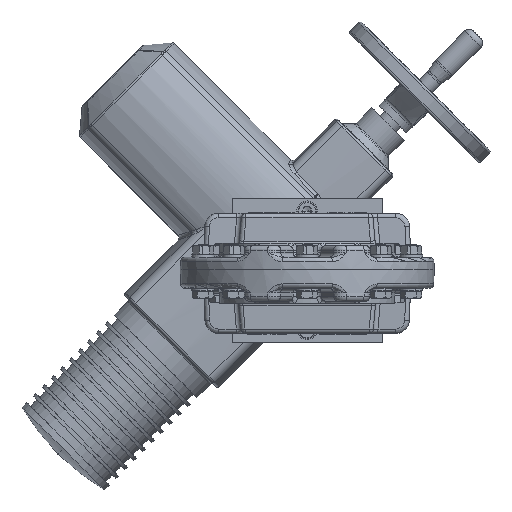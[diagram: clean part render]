
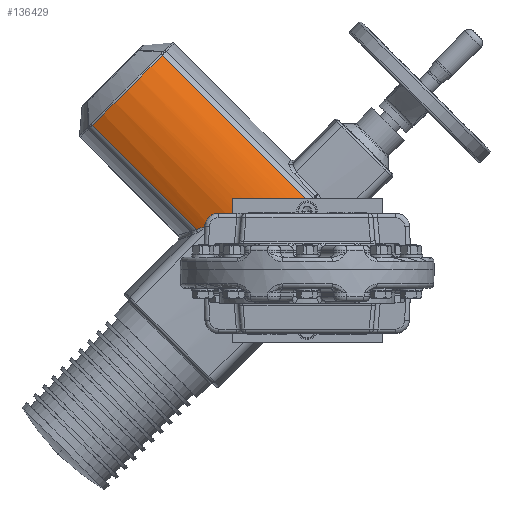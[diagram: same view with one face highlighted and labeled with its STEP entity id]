
A CAD part, front view. The second image highlights one B-rep face of the part: STEP entity #136429.
In plain terms, the highlighted cylindrical face has radius 100 mm (diameter 200 mm), a partial arc.
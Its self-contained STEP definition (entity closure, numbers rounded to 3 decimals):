
#216 = CARTESIAN_POINT ( 'NONE',  ( -83.125, 445.28, 37.53 ) ) ;
#591 = CARTESIAN_POINT ( 'NONE',  ( -44.009, 439.981, 45.62 ) ) ;
#1046 = CARTESIAN_POINT ( 'NONE',  ( -22.171, 443.217, 57.508 ) ) ;
#1290 = ORIENTED_EDGE ( 'NONE', *, *, #27313, .T. ) ;
#2676 = CARTESIAN_POINT ( 'NONE',  ( -168.291, 540., 168.041 ) ) ;
#10435 = CARTESIAN_POINT ( 'NONE',  ( -95.942, 449.737, 34.823 ) ) ;
#10804 = CARTESIAN_POINT ( 'NONE',  ( -52.738, 440.787, 34.494 ) ) ;
#11274 = CARTESIAN_POINT ( 'NONE',  ( -39.457, 440.252, 49.37 ) ) ;
#11619 = B_SPLINE_CURVE_WITH_KNOTS ( 'NONE', 3,
 ( #32142, #10804, #42779, #116891, #53395, #127493, #64098, #591, #74729, #11274, #85448, #21901, #96082, #32600, #106704, #43223, #117344, #53886, #127935, #64568, #1046, #75205, #11725, #85914, #22373, #96521 ),
 .UNSPECIFIED., .F., .F.,
 ( 4, 2, 2, 2, 2, 2, 2, 2, 2, 2, 2, 2, 4 ),
 ( 0., 0.007, 0.011, 0.014, 0.021, 0.025, 0.028, 0.035, 0.039, 0.041, 0.042, 0.05, 0.057 ),
 .UNSPECIFIED. ) ;
#11725 = CARTESIAN_POINT ( 'NONE',  ( -17.098, 444.438, 58.595 ) ) ;
#11756 = AXIS2_PLACEMENT_3D ( 'NONE', #2676, #24012, #66682 ) ;
#12876 = ORIENTED_EDGE ( 'NONE', *, *, #18807, .T. ) ;
#17545 = EDGE_CURVE ( 'NONE', #39035, #52644, #99065, .T. ) ;
#17569 = VERTEX_POINT ( 'NONE', #49761 ) ;
#17815 = EDGE_CURVE ( 'NONE', #39035, #131536, #126221, .T. ) ;
#18651 = ORIENTED_EDGE ( 'NONE', *, *, #30124, .T. ) ;
#18807 = EDGE_CURVE ( 'NONE', #103499, #17569, #58126, .T. ) ;
#19506 = CARTESIAN_POINT ( 'NONE',  ( -0.992, 449.737, 61.611 ) ) ;
#21090 = CARTESIAN_POINT ( 'NONE',  ( -93.963, 448.808, 35.657 ) ) ;
#21901 = CARTESIAN_POINT ( 'NONE',  ( -36.519, 440.565, 51.374 ) ) ;
#22373 = CARTESIAN_POINT ( 'NONE',  ( -10.279, 446.23, 59.226 ) ) ;
#22630 = AXIS2_PLACEMENT_3D ( 'NONE', #38672, #112748, #49299 ) ;
#24012 = DIRECTION ( 'NONE',  ( 0.707, 0., -0.707 ) ) ;
#24896 = CARTESIAN_POINT ( 'NONE',  ( -5.873, 447.818, 60.444 ) ) ;
#27313 = EDGE_CURVE ( 'NONE', #17569, #65371, #87258, .T. ) ;
#30124 = EDGE_CURVE ( 'NONE', #125086, #109374, #64166, .T. ) ;
#30248 = CARTESIAN_POINT ( 'NONE',  ( -83.125, 445.28, 37.53 ) ) ;
#31764 = CARTESIAN_POINT ( 'NONE',  ( -90.876, 447.548, 36.708 ) ) ;
#32142 = CARTESIAN_POINT ( 'NONE',  ( -53.809, 441.126, 32.392 ) ) ;
#32515 = DIRECTION ( 'NONE',  ( 0.707, 0., -0.707 ) ) ;
#32600 = CARTESIAN_POINT ( 'NONE',  ( -32.461, 441.137, 53.713 ) ) ;
#34916 = ORIENTED_EDGE ( 'NONE', *, *, #39186, .T. ) ;
#35577 = CARTESIAN_POINT ( 'NONE',  ( -4.467, 448.419, 61.018 ) ) ;
#37538 = ORIENTED_EDGE ( 'NONE', *, *, #17815, .F. ) ;
#38672 = CARTESIAN_POINT ( 'NONE',  ( -155.765, 540., 155.515 ) ) ;
#39035 = VERTEX_POINT ( 'NONE', #89677 ) ;
#39186 = EDGE_CURVE ( 'NONE', #65371, #125086, #11619, .T. ) ;
#39957 = B_SPLINE_CURVE_WITH_KNOTS ( 'NONE', 3,
 ( #55953, #77756, #24896, #99014, #35577, #109650, #46183, #120321 ),
 .UNSPECIFIED., .F., .F.,
 ( 4, 2, 2, 4 ),
 ( 0., 0.002, 0.003, 0.007 ),
 .UNSPECIFIED. ) ;
#42410 = CARTESIAN_POINT ( 'NONE',  ( -87.629, 446.43, 37.469 ) ) ;
#42779 = CARTESIAN_POINT ( 'NONE',  ( -51.524, 440.52, 36.506 ) ) ;
#43223 = CARTESIAN_POINT ( 'NONE',  ( -27.144, 442.131, 55.972 ) ) ;
#46183 = CARTESIAN_POINT ( 'NONE',  ( -2.023, 449.381, 61.588 ) ) ;
#47007 = CARTESIAN_POINT ( 'NONE',  ( -7.986, 446.858, 59.207 ) ) ;
#49299 = DIRECTION ( 'NONE',  ( 0.707, 0., 0.707 ) ) ;
#49761 = CARTESIAN_POINT ( 'NONE',  ( -83.125, 445.28, 37.53 ) ) ;
#51565 = CARTESIAN_POINT ( 'NONE',  ( -53.809, 441.126, 32.392 ) ) ;
#52644 = VERTEX_POINT ( 'NONE', #104640 ) ;
#53030 = CARTESIAN_POINT ( 'NONE',  ( -85.399, 445.8, 37.68 ) ) ;
#53395 = CARTESIAN_POINT ( 'NONE',  ( -48.77, 440.161, 40.326 ) ) ;
#53886 = CARTESIAN_POINT ( 'NONE',  ( -24.403, 442.713, 56.882 ) ) ;
#55953 = CARTESIAN_POINT ( 'NONE',  ( -6.757, 447.416, 59.952 ) ) ;
#58126 = B_SPLINE_CURVE_WITH_KNOTS ( 'NONE', 3,
 ( #10435, #84635, #21090, #95246, #31764, #105872, #42410, #116513, #53030, #127150, #63715, #216 ),
 .UNSPECIFIED., .F., .F.,
 ( 4, 2, 2, 2, 2, 4 ),
 ( 0., 0.003, 0.007, 0.01, 0.012, 0.014 ),
 .UNSPECIFIED. ) ;
#62353 = FACE_OUTER_BOUND ( 'NONE', #89750, .T. ) ;
#63715 = CARTESIAN_POINT ( 'NONE',  ( -83.7, 445.393, 37.633 ) ) ;
#64098 = CARTESIAN_POINT ( 'NONE',  ( -46.47, 440.018, 43.048 ) ) ;
#64166 = B_SPLINE_CURVE_WITH_KNOTS ( 'NONE', 3,
 ( #132780, #111512, #100867, #69446 ),
 .UNSPECIFIED., .F., .F.,
 ( 4, 4 ),
 ( 0.008, 0.009 ),
 .UNSPECIFIED. ) ;
#64568 = CARTESIAN_POINT ( 'NONE',  ( -22.733, 443.087, 57.36 ) ) ;
#65371 = VERTEX_POINT ( 'NONE', #124563 ) ;
#66682 = DIRECTION ( 'NONE',  ( -0.707, 0., -0.707 ) ) ;
#69446 = CARTESIAN_POINT ( 'NONE',  ( -6.757, 447.416, 59.952 ) ) ;
#69985 = VECTOR ( 'NONE', #75160, 1000. ) ;
#74698 = CARTESIAN_POINT ( 'NONE',  ( -137.857, 449.737, 198.476 ) ) ;
#74729 = CARTESIAN_POINT ( 'NONE',  ( -42.255, 440.04, 47.199 ) ) ;
#75160 = DIRECTION ( 'NONE',  ( 0.707, 0., -0.707 ) ) ;
#75205 = CARTESIAN_POINT ( 'NONE',  ( -19.358, 443.874, 58.197 ) ) ;
#76232 = EDGE_CURVE ( 'NONE', #109374, #131536, #39957, .T. ) ;
#77756 = CARTESIAN_POINT ( 'NONE',  ( -6.322, 447.617, 60.213 ) ) ;
#84635 = CARTESIAN_POINT ( 'NONE',  ( -94.963, 449.26, 35.256 ) ) ;
#85448 = CARTESIAN_POINT ( 'NONE',  ( -38.496, 440.343, 50.061 ) ) ;
#85914 = CARTESIAN_POINT ( 'NONE',  ( -12.559, 445.616, 59.109 ) ) ;
#87258 = B_SPLINE_CURVE_WITH_KNOTS ( 'NONE', 3,
 ( #30248, #93755, #114990, #51565 ),
 .UNSPECIFIED., .F., .F.,
 ( 4, 4 ),
 ( 0., 0.03 ),
 .UNSPECIFIED. ) ;
#89677 = CARTESIAN_POINT ( 'NONE',  ( -125.331, 449.737, 185.95 ) ) ;
#89750 = EDGE_LOOP ( 'NONE', ( #112986, #12876, #1290, #34916, #18651, #130977, #37538, #119083 ) ) ;
#91749 = CARTESIAN_POINT ( 'NONE',  ( -6.757, 447.416, 59.952 ) ) ;
#93755 = CARTESIAN_POINT ( 'NONE',  ( -73.431, 443.376, 35.79 ) ) ;
#94030 = LINE ( 'NONE', #95989, #118841 ) ;
#95246 = CARTESIAN_POINT ( 'NONE',  ( -91.919, 447.952, 36.383 ) ) ;
#95989 = CARTESIAN_POINT ( 'NONE',  ( -198.726, 449.737, 137.607 ) ) ;
#96082 = CARTESIAN_POINT ( 'NONE',  ( -35.516, 440.695, 51.988 ) ) ;
#96521 = CARTESIAN_POINT ( 'NONE',  ( -7.986, 446.858, 59.207 ) ) ;
#99014 = CARTESIAN_POINT ( 'NONE',  ( -4.944, 448.219, 60.847 ) ) ;
#99065 = CIRCLE ( 'NONE', #22630, 100. ) ;
#100867 = CARTESIAN_POINT ( 'NONE',  ( -7.167, 447.227, 59.706 ) ) ;
#103499 = VERTEX_POINT ( 'NONE', #129332 ) ;
#104640 = CARTESIAN_POINT ( 'NONE',  ( -186.2, 449.737, 125.081 ) ) ;
#105675 = EDGE_CURVE ( 'NONE', #52644, #103499, #94030, .T. ) ;
#105872 = CARTESIAN_POINT ( 'NONE',  ( -88.734, 446.787, 37.25 ) ) ;
#106704 = CARTESIAN_POINT ( 'NONE',  ( -30.367, 441.499, 54.705 ) ) ;
#109374 = VERTEX_POINT ( 'NONE', #91749 ) ;
#109650 = CARTESIAN_POINT ( 'NONE',  ( -3.019, 449.005, 61.434 ) ) ;
#111512 = CARTESIAN_POINT ( 'NONE',  ( -7.576, 447.041, 59.458 ) ) ;
#112748 = DIRECTION ( 'NONE',  ( 0.707, 0., -0.707 ) ) ;
#112986 = ORIENTED_EDGE ( 'NONE', *, *, #105675, .T. ) ;
#114990 = CARTESIAN_POINT ( 'NONE',  ( -63.657, 441.999, 34.087 ) ) ;
#116513 = CARTESIAN_POINT ( 'NONE',  ( -85.959, 445.951, 37.646 ) ) ;
#116891 = CARTESIAN_POINT ( 'NONE',  ( -49.486, 440.236, 39.388 ) ) ;
#117344 = CARTESIAN_POINT ( 'NONE',  ( -26.056, 442.356, 56.358 ) ) ;
#118841 = VECTOR ( 'NONE', #32515, 1000. ) ;
#119083 = ORIENTED_EDGE ( 'NONE', *, *, #17545, .T. ) ;
#120321 = CARTESIAN_POINT ( 'NONE',  ( -0.992, 449.737, 61.611 ) ) ;
#124563 = CARTESIAN_POINT ( 'NONE',  ( -53.809, 441.126, 32.392 ) ) ;
#125086 = VERTEX_POINT ( 'NONE', #47007 ) ;
#126221 = LINE ( 'NONE', #74698, #69985 ) ;
#127150 = CARTESIAN_POINT ( 'NONE',  ( -84.269, 445.521, 37.673 ) ) ;
#127493 = CARTESIAN_POINT ( 'NONE',  ( -47.264, 440.052, 42.154 ) ) ;
#127935 = CARTESIAN_POINT ( 'NONE',  ( -23.848, 442.836, 57.047 ) ) ;
#129332 = CARTESIAN_POINT ( 'NONE',  ( -95.942, 449.737, 34.823 ) ) ;
#130977 = ORIENTED_EDGE ( 'NONE', *, *, #76232, .T. ) ;
#131536 = VERTEX_POINT ( 'NONE', #19506 ) ;
#132780 = CARTESIAN_POINT ( 'NONE',  ( -7.986, 446.858, 59.207 ) ) ;
#133560 = CYLINDRICAL_SURFACE ( 'NONE', #11756, 100. ) ;
#136429 = ADVANCED_FACE ( 'NONE', ( #62353 ), #133560, .T. ) ;
